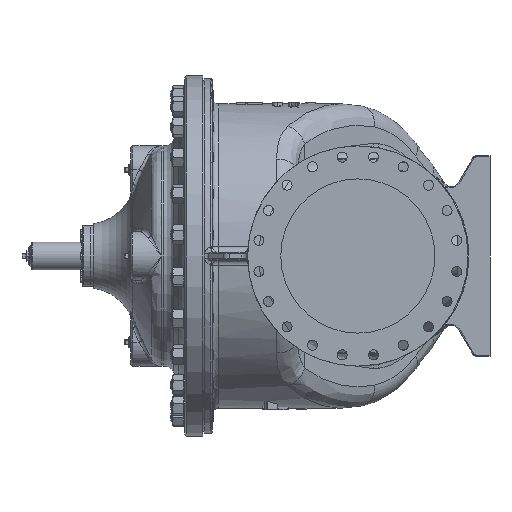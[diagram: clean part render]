
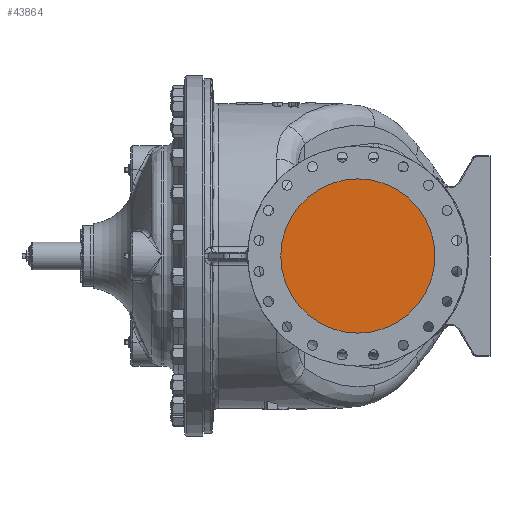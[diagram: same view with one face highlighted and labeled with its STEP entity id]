
A CAD part, left-side view. The second image highlights one B-rep face of the part: STEP entity #43864.
In plain terms, the highlighted planar face has unit normal (-1, 0, 0).
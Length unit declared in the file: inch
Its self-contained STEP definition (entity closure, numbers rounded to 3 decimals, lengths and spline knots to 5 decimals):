
#1523 = CARTESIAN_POINT ( 'NONE',  ( -24., 0., 0. ) ) ;
#2660 = DIRECTION ( 'NONE',  ( 1., 0., 0. ) ) ;
#6808 = CARTESIAN_POINT ( 'NONE',  ( -24., 0., 9.625 ) ) ;
#7316 = DIRECTION ( 'NONE',  ( 0., 0., -1. ) ) ;
#9148 = CARTESIAN_POINT ( 'NONE',  ( -24., 0., 0. ) ) ;
#10127 = ORIENTED_EDGE ( 'NONE', *, *, #72715, .F. ) ;
#12667 = CARTESIAN_POINT ( 'NONE',  ( -24., 0., -9.625 ) ) ;
#14978 = DIRECTION ( 'NONE',  ( 0., 0., -1. ) ) ;
#17063 = AXIS2_PLACEMENT_3D ( 'NONE', #9148, #49460, #14978 ) ;
#19986 = AXIS2_PLACEMENT_3D ( 'NONE', #37189, #2660, #42973 ) ;
#20601 = EDGE_CURVE ( 'NONE', #72173, #44456, #63938, .T. ) ;
#37189 = CARTESIAN_POINT ( 'NONE',  ( -24., 0., 0. ) ) ;
#39485 = EDGE_LOOP ( 'NONE', ( #68026, #10127 ) ) ;
#41822 = DIRECTION ( 'NONE',  ( 1., 0., 0. ) ) ;
#42973 = DIRECTION ( 'NONE',  ( 0., 0., -1. ) ) ;
#43864 = ADVANCED_FACE ( 'NONE', ( #58186 ), #64295, .F. ) ;
#44456 = VERTEX_POINT ( 'NONE', #12667 ) ;
#49460 = DIRECTION ( 'NONE',  ( 1., 0., 0. ) ) ;
#52371 = AXIS2_PLACEMENT_3D ( 'NONE', #1523, #41822, #7316 ) ;
#58186 = FACE_OUTER_BOUND ( 'NONE', #39485, .T. ) ;
#63938 = CIRCLE ( 'NONE', #17063, 9.625 ) ;
#64295 = PLANE ( 'NONE',  #52371 ) ;
#67346 = CIRCLE ( 'NONE', #19986, 9.625 ) ;
#68026 = ORIENTED_EDGE ( 'NONE', *, *, #20601, .F. ) ;
#72173 = VERTEX_POINT ( 'NONE', #6808 ) ;
#72715 = EDGE_CURVE ( 'NONE', #44456, #72173, #67346, .T. ) ;
